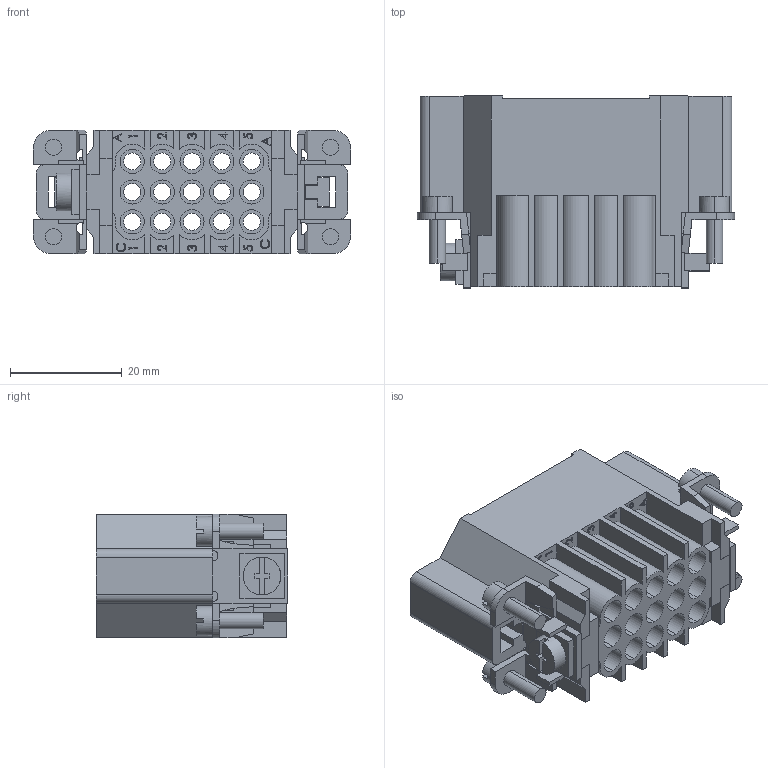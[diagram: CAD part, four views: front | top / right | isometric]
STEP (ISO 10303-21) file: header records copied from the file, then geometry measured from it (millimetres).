
FILE_DESCRIPTION (( 'STEP AP214' ), '1' );
FILE_NAME ('CDM-15.STEP', '2006-05-18T23:08:08', ( 'Mencom' ), ( 'Mencom Corporation' ), 'SwSTEP 2.0', 'SolidWorks 2006104', '' );
FILE_SCHEMA (( 'AUTOMOTIVE_DESIGN' ));
Length unit declared in the file: inch
Products named in the file (1): CDM-15
Bounding box: 56.64 x 34.29 x 22.1 mm (x, y, z)
Volume: 30379.3 mm3; surface area: 29423.5 mm2
Topology: 10 solids, 11 shells, 964 faces, 2618 edges, 1732 vertices
Faces by surface type: plane 647, cylinder 206, bspline 111
Entity records: 49050 total; most frequent: CARTESIAN_POINT 15944, ORIENTED_EDGE 5236, DIRECTION 4522, EDGE_CURVE 2618, VECTOR 1954, LINE 1954, VERTEX_POINT 1732, AXIS2_PLACEMENT_3D 1284
